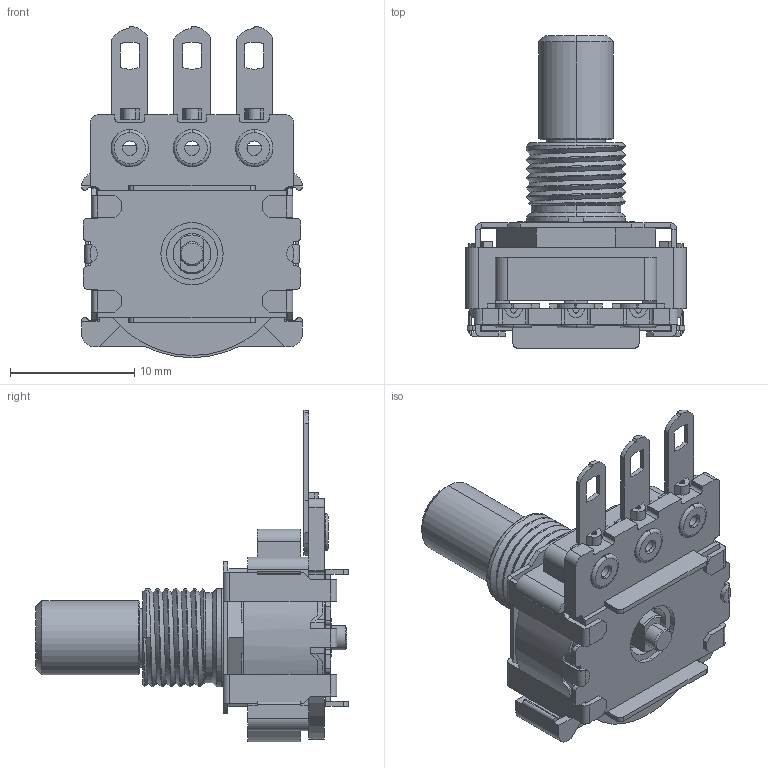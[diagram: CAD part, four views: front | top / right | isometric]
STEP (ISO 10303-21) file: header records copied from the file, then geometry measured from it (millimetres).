
FILE_DESCRIPTION (( 'STEP AP214' ), '1' );
FILE_NAME ('280TBA5R102A121.STEP', '2019-05-24T08:19:22', ( '' ), ( '' ), 'SwSTEP 2.0', 'SolidWorks 2019', '' );
FILE_SCHEMA (( 'AUTOMOTIVE_DESIGN' ));
Length unit declared in the file: millimetre
Products named in the file (8): 280TBA5R102A121; 280-01-011-30-01(.162); 13M280S6272T; 280D-C-2280; 280-02-010-40-01B; 280-18-T05-01-37roll over add rib; 280-08-T01; 280-07-001-01-53
Assembly tree (10 placements, depth 2):
  280TBA5R102A121
    280-02-010-40-01B
    280D-C-2280
    280-01-011-30-01(.162)
    280-18-T05-01-37roll over add rib  x4
    280-08-T01
    280-07-001-01-53
    13M280S6272T
Bounding box: 17.78 x 25.21 x 26.72 mm (x, y, z)
Volume: 1745.9 mm3; surface area: 4189.2 mm2
Topology: 10 solids, 10 shells, 903 faces, 2537 edges, 1658 vertices
Faces by surface type: plane 639, cylinder 202, cone 24, bspline 20, torus 18
Entity records: 20773 total; most frequent: CARTESIAN_POINT 5542, ORIENTED_EDGE 3244, DIRECTION 2975, EDGE_CURVE 1622, LINE 1081, VECTOR 1081, VERTEX_POINT 1058, AXIS2_PLACEMENT_3D 947
